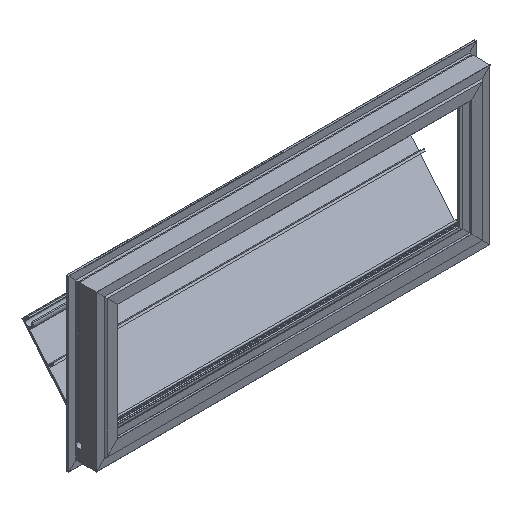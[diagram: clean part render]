
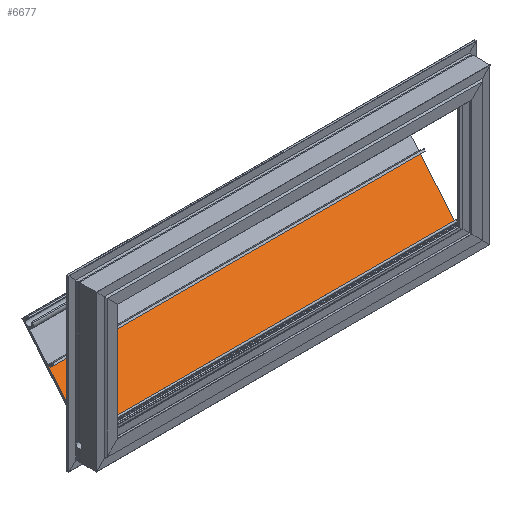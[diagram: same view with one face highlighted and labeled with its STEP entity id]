
A CAD part, isometric view. The second image highlights one B-rep face of the part: STEP entity #6677.
In plain terms, the highlighted planar face has unit normal (0, -0.766, 0.643) as drawn and (0, -1, 0) by its records, which use the part's own axes.
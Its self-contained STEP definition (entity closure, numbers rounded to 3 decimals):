
#5951=DIRECTION('',(1.,0.,0.));
#5952=VECTOR('',#5951,31.555);
#5953=CARTESIAN_POINT('',(-381.909,-489.709,0.));
#5954=LINE('',#5953,#5952);
#6090=DIRECTION('',(0.,0.,1.));
#6091=VECTOR('',#6090,218.5);
#6092=CARTESIAN_POINT('',(-350.355,-489.709,0.));
#6093=LINE('',#6092,#6091);
#6094=DIRECTION('',(0.,0.,1.));
#6095=VECTOR('',#6094,218.5);
#6096=CARTESIAN_POINT('',(-381.909,-489.709,0.));
#6097=LINE('',#6096,#6095);
#6210=DIRECTION('',(1.,0.,0.));
#6211=VECTOR('',#6210,31.555);
#6212=CARTESIAN_POINT('',(-381.909,-489.709,218.5));
#6213=LINE('',#6212,#6211);
#6275=CARTESIAN_POINT('',(-381.909,-489.709,0.));
#6276=VERTEX_POINT('',#6275);
#6277=CARTESIAN_POINT('',(-350.355,-489.709,0.));
#6278=VERTEX_POINT('',#6277);
#6329=CARTESIAN_POINT('',(-381.909,-489.709,218.5));
#6330=VERTEX_POINT('',#6329);
#6331=CARTESIAN_POINT('',(-350.355,-489.709,218.5));
#6332=VERTEX_POINT('',#6331);
#6664=CARTESIAN_POINT('',(-381.909,-489.709,0.));
#6665=DIRECTION('',(0.,-1.,0.));
#6666=DIRECTION('',(1.,0.,0.));
#6667=AXIS2_PLACEMENT_3D('',#6664,#6665,#6666);
#6668=PLANE('',#6667);
#6669=ORIENTED_EDGE('',*,*,#6388,.F.);
#6671=ORIENTED_EDGE('',*,*,#6670,.T.);
#6673=ORIENTED_EDGE('',*,*,#6672,.T.);
#6674=ORIENTED_EDGE('',*,*,#6656,.F.);
#6675=EDGE_LOOP('',(#6669,#6671,#6673,#6674));
#6676=FACE_OUTER_BOUND('',#6675,.F.);
#6677=ADVANCED_FACE('',(#6676),#6668,.T.);
#6388=EDGE_CURVE('',#6276,#6278,#5954,.T.);
#6656=EDGE_CURVE('',#6278,#6332,#6093,.T.);
#6670=EDGE_CURVE('',#6276,#6330,#6097,.T.);
#6672=EDGE_CURVE('',#6330,#6332,#6213,.T.);
